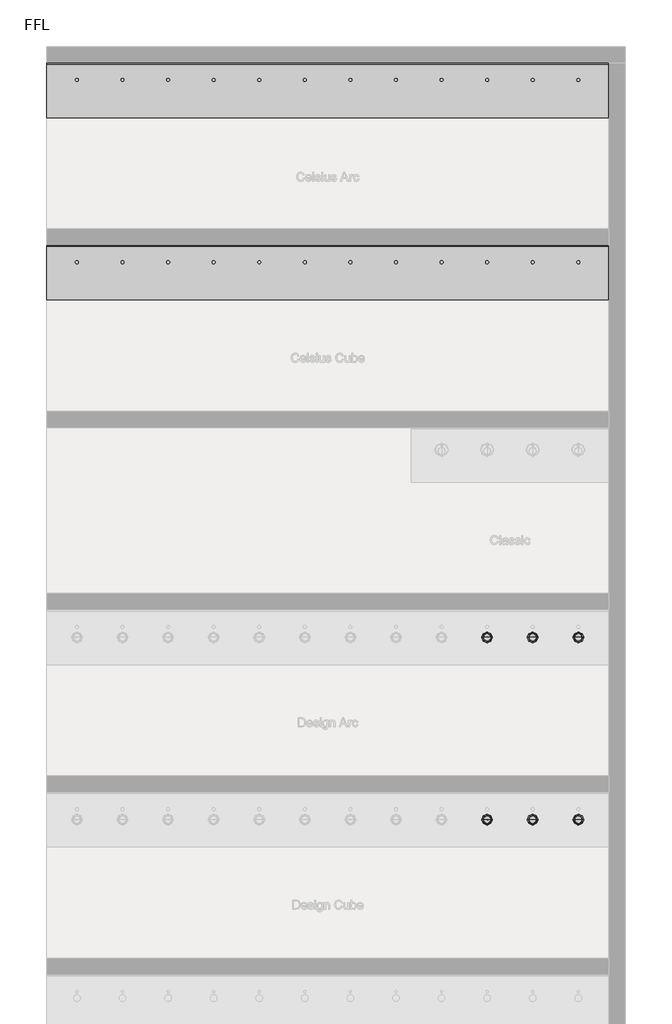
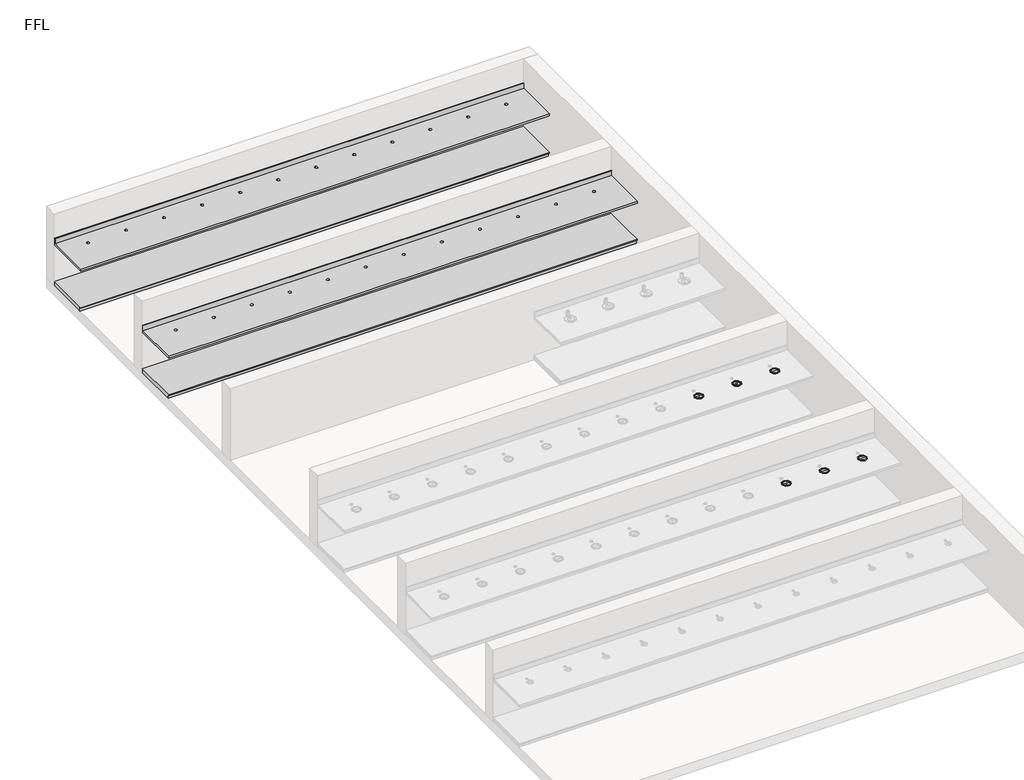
# One storey, part 4 of 6: 6 flow terminals, 4 furniture elements.
"""IFC4 building model written with IfcOpenShell, lengths in millimetres."""

from ifc_helpers import new_model, si_unit, frame, origin, place, context, project, spatial, polyline, circle_curve, transform, mapped, element, save
from ifc_brep_helpers import plane_surface, revolved_surface, advanced_brep
from components import bright_chrome_743c02cf, generic_plinth_900mm_08863006

model = new_model("IFC4")

# Units and contexts
model_context = context("Model", 3, world=origin())
ifc_project = project(units=[si_unit("LENGTHUNIT", "METRE", prefix="MILLI")], contexts=[model_context])

# Site, building, storey
site = spatial("IfcSite", under=ifc_project)
building = spatial("IfcBuilding", under=site)
storey = spatial("IfcBuildingStorey", under=building, Name="FFL", Elevation=0.0)

# Flow terminals
placement = place(None, origin())
bright_chrome_shape = bright_chrome_743c02cf(model_context)
element("IfcFlowTerminal", 1, ObjectType="z_PlumFixt_Zip Australia_Font : Nickel", at=placement, inside=storey, context=model_context, shape_type="MappedRepresentation", body=[
    mapped(bright_chrome_shape, transform((279.2647071, 4381.2393304, 900.0), x_axis=(1.0, 0.0, 0.0), y_axis=(0.0, 1.0, 0.0), z_axis=(0.0, 0.0, 1.0))),
])
element("IfcFlowTerminal", 2, ObjectType="z_PlumFixt_Zip Australia_Font : Nickel", at=placement, inside=storey, context=model_context, shape_type="MappedRepresentation", body=[
    mapped(bright_chrome_shape, transform((279.2647071, 1381.2393304, 900.0), x_axis=(1.0, 0.0, 0.0), y_axis=(0.0, 1.0, 0.0), z_axis=(0.0, 0.0, 1.0))),
])
element("IfcFlowTerminal", 3, ObjectType="z_PlumFixt_Zip Australia_Font : Platinum", at=placement, inside=storey, context=model_context, shape_type="MappedRepresentation", body=[
    mapped(bright_chrome_shape, transform((1029.2647071, 4381.2393304, 900.0), x_axis=(1.0, 0.0, 0.0), y_axis=(0.0, 1.0, 0.0), z_axis=(0.0, 0.0, 1.0))),
])
element("IfcFlowTerminal", 4, ObjectType="z_PlumFixt_Zip Australia_Font : Platinum", at=placement, inside=storey, context=model_context, shape_type="MappedRepresentation", body=[
    mapped(bright_chrome_shape, transform((1029.2647071, 1381.2393304, 900.0), x_axis=(1.0, 0.0, 0.0), y_axis=(0.0, 1.0, 0.0), z_axis=(0.0, 0.0, 1.0))),
])
element("IfcFlowTerminal", 5, ObjectType="z_PlumFixt_Zip Australia_Font : Rose Gold", at=placement, inside=storey, context=model_context, shape_type="MappedRepresentation", body=[
    mapped(bright_chrome_shape, transform((1779.2647071, 4381.2393304, 900.0), x_axis=(1.0, 0.0, 0.0), y_axis=(0.0, 1.0, 0.0), z_axis=(0.0, 0.0, 1.0))),
])
element("IfcFlowTerminal", 6, ObjectType="z_PlumFixt_Zip Australia_Font : Rose Gold", at=placement, inside=storey, context=model_context, shape_type="MappedRepresentation", body=[
    mapped(bright_chrome_shape, transform((1779.2647071, 1381.2393304, 900.0), x_axis=(1.0, 0.0, 0.0), y_axis=(0.0, 1.0, 0.0), z_axis=(0.0, 0.0, 1.0))),
])

# Furniture
element("IfcFurniture", 7, ObjectType="Counter Top : 900mm Depth", at=placement, inside=storey, context=model_context, shape_type="AdvancedBrep", body=[
    advanced_brep(
    [(-6969.7352929, 12948.2393304, 900.0), (2280.2657919, 12948.2393304, 900.0), (2280.2657919, 13829.1893304, 900.0), (-6969.7352929, 13829.1893304, 900.0), (-6469.7352929, 13543.7393304, 900.0), (-6469.7352929, 13592.7393304, 900.0), (-5719.7352929, 13543.7393304, 900.0), (-5719.7352929, 13592.7393304, 900.0), (-4969.7352929, 13543.7393304, 900.0), (-4969.7352929, 13592.7393304, 900.0), (-4219.7352929, 13543.7393304, 900.0), (-4219.7352929, 13592.7393304, 900.0), (-3469.7352929, 13543.7393304, 900.0), (-3469.7352929, 13592.7393304, 900.0), (-2719.7352929, 13543.7393304, 900.0), (-2719.7352929, 13592.7393304, 900.0), (-1969.7352929, 13543.7393304, 900.0), (-1969.7352929, 13592.7393304, 900.0), (-1219.7352929, 13543.7393304, 900.0), (-1219.7352929, 13592.7393304, 900.0), (-469.7352929, 13543.7393304, 900.0), (-469.7352929, 13592.7393304, 900.0), (280.2647071, 13543.7393304, 900.0), (280.2647071, 13592.7393304, 900.0), (1030.2647071, 13543.7393304, 900.0), (1030.2647071, 13592.7393304, 900.0), (1780.2647071, 13543.7393304, 900.0), (1780.2647071, 13592.7393304, 900.0), (2280.2657919, 13848.2393304, 860.0), (2280.2657919, 12948.2393304, 860.0), (-6969.7352929, 12948.2393304, 860.0), (-6969.7352929, 13848.2393304, 860.0), (-6469.7352929, 13592.7393304, 860.0), (-6469.7352929, 13543.7393304, 860.0), (-5719.7352929, 13592.7393304, 860.0), (-5719.7352929, 13543.7393304, 860.0), (-4969.7352929, 13592.7393304, 860.0), (-4969.7352929, 13543.7393304, 860.0), (-4219.7352929, 13592.7393304, 860.0), (-4219.7352929, 13543.7393304, 860.0), (-3469.7352929, 13592.7393304, 860.0), (-3469.7352929, 13543.7393304, 860.0), (-2719.7352929, 13592.7393304, 860.0), (-2719.7352929, 13543.7393304, 860.0), (-1969.7352929, 13592.7393304, 860.0), (-1969.7352929, 13543.7393304, 860.0), (-1219.7352929, 13592.7393304, 860.0), (-1219.7352929, 13543.7393304, 860.0), (-469.7352929, 13592.7393304, 860.0), (-469.7352929, 13543.7393304, 860.0), (280.2647071, 13592.7393304, 860.0), (280.2647071, 13543.7393304, 860.0), (1030.2647071, 13592.7393304, 860.0), (1030.2647071, 13543.7393304, 860.0), (1780.2647071, 13592.7393304, 860.0), (1780.2647071, 13543.7393304, 860.0), (-6969.7352929, 13848.2393304, 1001.6), (2280.2657919, 13848.2393304, 1001.6), (-6969.7352929, 13829.1893304, 1001.6), (2280.2657919, 13829.1893304, 1001.6)],
    [
        (0, 1),
        (1, 2),
        (2, 3),
        (3, 0),
        (4, 5, circle_curve(frame((-6469.7352929, 13568.2393304, 900.0), z_axis=(0.0, 0.0, -1.0), x_axis=(0.0, -1.0, 0.0)), 24.5)),
        (5, 4, circle_curve(frame((-6469.7352929, 13568.2393304, 900.0), z_axis=(0.0, 0.0, -1.0), x_axis=(0.0, -1.0, 0.0)), 24.5)),
        (6, 7, circle_curve(frame((-5719.7352929, 13568.2393304, 900.0), z_axis=(0.0, 0.0, -1.0), x_axis=(0.0, -1.0, 0.0)), 24.5)),
        (7, 6, circle_curve(frame((-5719.7352929, 13568.2393304, 900.0), z_axis=(0.0, 0.0, -1.0), x_axis=(0.0, -1.0, 0.0)), 24.5)),
        (8, 9, circle_curve(frame((-4969.7352929, 13568.2393304, 900.0), z_axis=(0.0, 0.0, -1.0), x_axis=(0.0, -1.0, 0.0)), 24.5)),
        (9, 8, circle_curve(frame((-4969.7352929, 13568.2393304, 900.0), z_axis=(0.0, 0.0, -1.0), x_axis=(0.0, -1.0, 0.0)), 24.5)),
        (10, 11, circle_curve(frame((-4219.7352929, 13568.2393304, 900.0), z_axis=(0.0, 0.0, -1.0), x_axis=(0.0, -1.0, 0.0)), 24.5)),
        (11, 10, circle_curve(frame((-4219.7352929, 13568.2393304, 900.0), z_axis=(0.0, 0.0, -1.0), x_axis=(0.0, -1.0, 0.0)), 24.5)),
        (12, 13, circle_curve(frame((-3469.7352929, 13568.2393304, 900.0), z_axis=(0.0, 0.0, -1.0), x_axis=(0.0, -1.0, 0.0)), 24.5)),
        (13, 12, circle_curve(frame((-3469.7352929, 13568.2393304, 900.0), z_axis=(0.0, 0.0, -1.0), x_axis=(0.0, -1.0, 0.0)), 24.5)),
        (14, 15, circle_curve(frame((-2719.7352929, 13568.2393304, 900.0), z_axis=(0.0, 0.0, -1.0), x_axis=(0.0, -1.0, 0.0)), 24.5)),
        (15, 14, circle_curve(frame((-2719.7352929, 13568.2393304, 900.0), z_axis=(0.0, 0.0, -1.0), x_axis=(0.0, -1.0, 0.0)), 24.5)),
        (16, 17, circle_curve(frame((-1969.7352929, 13568.2393304, 900.0), z_axis=(0.0, 0.0, -1.0), x_axis=(0.0, -1.0, 0.0)), 24.5)),
        (17, 16, circle_curve(frame((-1969.7352929, 13568.2393304, 900.0), z_axis=(0.0, 0.0, -1.0), x_axis=(0.0, -1.0, 0.0)), 24.5)),
        (18, 19, circle_curve(frame((-1219.7352929, 13568.2393304, 900.0), z_axis=(0.0, 0.0, -1.0), x_axis=(0.0, -1.0, 0.0)), 24.5)),
        (19, 18, circle_curve(frame((-1219.7352929, 13568.2393304, 900.0), z_axis=(0.0, 0.0, -1.0), x_axis=(0.0, -1.0, 0.0)), 24.5)),
        (20, 21, circle_curve(frame((-469.7352929, 13568.2393304, 900.0), z_axis=(0.0, 0.0, -1.0), x_axis=(0.0, -1.0, 0.0)), 24.5)),
        (21, 20, circle_curve(frame((-469.7352929, 13568.2393304, 900.0), z_axis=(0.0, 0.0, -1.0), x_axis=(0.0, -1.0, 0.0)), 24.5)),
        (22, 23, circle_curve(frame((280.2647071, 13568.2393304, 900.0), z_axis=(0.0, 0.0, -1.0), x_axis=(0.0, -1.0, 0.0)), 24.5)),
        (23, 22, circle_curve(frame((280.2647071, 13568.2393304, 900.0), z_axis=(0.0, 0.0, -1.0), x_axis=(0.0, -1.0, 0.0)), 24.5)),
        (24, 25, circle_curve(frame((1030.2647071, 13568.2393304, 900.0), z_axis=(0.0, 0.0, -1.0), x_axis=(0.0, -1.0, 0.0)), 24.5)),
        (25, 24, circle_curve(frame((1030.2647071, 13568.2393304, 900.0), z_axis=(0.0, 0.0, -1.0), x_axis=(0.0, -1.0, 0.0)), 24.5)),
        (26, 27, circle_curve(frame((1780.2647071, 13568.2393304, 900.0), z_axis=(0.0, 0.0, -1.0), x_axis=(0.0, -1.0, 0.0)), 24.5)),
        (27, 26, circle_curve(frame((1780.2647071, 13568.2393304, 900.0), z_axis=(0.0, 0.0, -1.0), x_axis=(0.0, -1.0, 0.0)), 24.5)),
        (28, 29),
        (29, 30),
        (30, 31),
        (31, 28),
        (32, 33, circle_curve(frame((-6469.7352929, 13568.2393304, 860.0), z_axis=(0.0, 0.0, 1.0), x_axis=(0.0, -1.0, 0.0)), 24.5)),
        (33, 32, circle_curve(frame((-6469.7352929, 13568.2393304, 860.0), z_axis=(0.0, 0.0, 1.0), x_axis=(0.0, -1.0, 0.0)), 24.5)),
        (34, 35, circle_curve(frame((-5719.7352929, 13568.2393304, 860.0), z_axis=(0.0, 0.0, 1.0), x_axis=(0.0, -1.0, 0.0)), 24.5)),
        (35, 34, circle_curve(frame((-5719.7352929, 13568.2393304, 860.0), z_axis=(0.0, 0.0, 1.0), x_axis=(0.0, -1.0, 0.0)), 24.5)),
        (36, 37, circle_curve(frame((-4969.7352929, 13568.2393304, 860.0), z_axis=(0.0, 0.0, 1.0), x_axis=(0.0, -1.0, 0.0)), 24.5)),
        (37, 36, circle_curve(frame((-4969.7352929, 13568.2393304, 860.0), z_axis=(0.0, 0.0, 1.0), x_axis=(0.0, -1.0, 0.0)), 24.5)),
        (38, 39, circle_curve(frame((-4219.7352929, 13568.2393304, 860.0), z_axis=(0.0, 0.0, 1.0), x_axis=(0.0, -1.0, 0.0)), 24.5)),
        (39, 38, circle_curve(frame((-4219.7352929, 13568.2393304, 860.0), z_axis=(0.0, 0.0, 1.0), x_axis=(0.0, -1.0, 0.0)), 24.5)),
        (40, 41, circle_curve(frame((-3469.7352929, 13568.2393304, 860.0), z_axis=(0.0, 0.0, 1.0), x_axis=(0.0, -1.0, 0.0)), 24.5)),
        (41, 40, circle_curve(frame((-3469.7352929, 13568.2393304, 860.0), z_axis=(0.0, 0.0, 1.0), x_axis=(0.0, -1.0, 0.0)), 24.5)),
        (42, 43, circle_curve(frame((-2719.7352929, 13568.2393304, 860.0), z_axis=(0.0, 0.0, 1.0), x_axis=(0.0, -1.0, 0.0)), 24.5)),
        (43, 42, circle_curve(frame((-2719.7352929, 13568.2393304, 860.0), z_axis=(0.0, 0.0, 1.0), x_axis=(0.0, -1.0, 0.0)), 24.5)),
        (44, 45, circle_curve(frame((-1969.7352929, 13568.2393304, 860.0), z_axis=(0.0, 0.0, 1.0), x_axis=(0.0, -1.0, 0.0)), 24.5)),
        (45, 44, circle_curve(frame((-1969.7352929, 13568.2393304, 860.0), z_axis=(0.0, 0.0, 1.0), x_axis=(0.0, -1.0, 0.0)), 24.5)),
        (46, 47, circle_curve(frame((-1219.7352929, 13568.2393304, 860.0), z_axis=(0.0, 0.0, 1.0), x_axis=(0.0, -1.0, 0.0)), 24.5)),
        (47, 46, circle_curve(frame((-1219.7352929, 13568.2393304, 860.0), z_axis=(0.0, 0.0, 1.0), x_axis=(0.0, -1.0, 0.0)), 24.5)),
        (48, 49, circle_curve(frame((-469.7352929, 13568.2393304, 860.0), z_axis=(0.0, 0.0, 1.0), x_axis=(0.0, -1.0, 0.0)), 24.5)),
        (49, 48, circle_curve(frame((-469.7352929, 13568.2393304, 860.0), z_axis=(0.0, 0.0, 1.0), x_axis=(0.0, -1.0, 0.0)), 24.5)),
        (50, 51, circle_curve(frame((280.2647071, 13568.2393304, 860.0), z_axis=(0.0, 0.0, 1.0), x_axis=(0.0, -1.0, 0.0)), 24.5)),
        (51, 50, circle_curve(frame((280.2647071, 13568.2393304, 860.0), z_axis=(0.0, 0.0, 1.0), x_axis=(0.0, -1.0, 0.0)), 24.5)),
        (52, 53, circle_curve(frame((1030.2647071, 13568.2393304, 860.0), z_axis=(0.0, 0.0, 1.0), x_axis=(0.0, -1.0, 0.0)), 24.5)),
        (53, 52, circle_curve(frame((1030.2647071, 13568.2393304, 860.0), z_axis=(0.0, 0.0, 1.0), x_axis=(0.0, -1.0, 0.0)), 24.5)),
        (54, 55, circle_curve(frame((1780.2647071, 13568.2393304, 860.0), z_axis=(0.0, 0.0, 1.0), x_axis=(0.0, -1.0, 0.0)), 24.5)),
        (55, 54, circle_curve(frame((1780.2647071, 13568.2393304, 860.0), z_axis=(0.0, 0.0, 1.0), x_axis=(0.0, -1.0, 0.0)), 24.5)),
        (31, 56),
        (56, 57),
        (57, 28),
        (3, 58),
        (58, 56),
        (30, 0),
        (29, 1),
        (57, 59),
        (59, 2),
        (58, 59),
        (32, 5),
        (4, 33),
        (34, 7),
        (6, 35),
        (36, 9),
        (8, 37),
        (38, 11),
        (10, 39),
        (40, 13),
        (12, 41),
        (42, 15),
        (14, 43),
        (44, 17),
        (16, 45),
        (46, 19),
        (18, 47),
        (48, 21),
        (20, 49),
        (50, 23),
        (22, 51),
        (52, 25),
        (24, 53),
        (54, 27),
        (26, 55),
    ],
    [
        plane_surface(frame((-6969.7352929, 13848.2393304, 900.0), z_axis=(0.0, 0.0, 1.0), x_axis=(-1.0, 0.0, 0.0))),
        plane_surface(frame((-6969.7352929, 13848.2393304, 860.0), z_axis=(0.0, 0.0, -1.0), x_axis=(1.0, 0.0, 0.0))),
        plane_surface(frame((2280.2657919, 13848.2393304, 900.0), z_axis=(0.0, 1.0, 0.0), x_axis=(0.0, 0.0, -1.0))),
        plane_surface(frame((-6969.7352929, 13848.2393304, 900.0), z_axis=(-1.0, 0.0, 0.0), x_axis=(0.0, 0.0, -1.0))),
        plane_surface(frame((-6969.7352929, 12948.2393304, 900.0), z_axis=(0.0, -1.0, 0.0), x_axis=(0.0, 0.0, -1.0))),
        plane_surface(frame((2280.2657919, 12948.2393304, 900.0), z_axis=(1.0, 0.0, 0.0), x_axis=(0.0, 0.0, -1.0))),
        plane_surface(frame((-6969.7352929, 13848.2393304, 1001.6), z_axis=(0.0, 0.0, 1.0), x_axis=(0.0, -1.0, 0.0))),
        plane_surface(frame((-6969.7352929, 13829.1893304, 1001.6), z_axis=(0.0, -1.0, 0.0), x_axis=(0.0, 0.0, -1.0))),
        revolved_surface(polyline([(-6469.7352929, 13543.7393304, 900.0), (-6469.7352929, 13543.7393304, 860.0)]), (-6469.7352929, 13568.2393304, 700.0), (0.0, 0.0, 1.0)),
        revolved_surface(polyline([(-5719.7352929, 13543.7393304, 900.0), (-5719.7352929, 13543.7393304, 860.0)]), (-5719.7352929, 13568.2393304, 700.0), (0.0, 0.0, 1.0)),
        revolved_surface(polyline([(-4969.7352929, 13543.7393304, 900.0), (-4969.7352929, 13543.7393304, 860.0)]), (-4969.7352929, 13568.2393304, 700.0), (0.0, 0.0, 1.0)),
        revolved_surface(polyline([(-4219.7352929, 13543.7393304, 900.0), (-4219.7352929, 13543.7393304, 860.0)]), (-4219.7352929, 13568.2393304, 700.0), (0.0, 0.0, 1.0)),
        revolved_surface(polyline([(-3469.7352929, 13543.7393304, 900.0), (-3469.7352929, 13543.7393304, 860.0)]), (-3469.7352929, 13568.2393304, 700.0), (0.0, 0.0, 1.0)),
        revolved_surface(polyline([(-2719.7352929, 13543.7393304, 900.0), (-2719.7352929, 13543.7393304, 860.0)]), (-2719.7352929, 13568.2393304, 700.0), (0.0, 0.0, 1.0)),
        revolved_surface(polyline([(-1969.7352929, 13543.7393304, 900.0), (-1969.7352929, 13543.7393304, 860.0)]), (-1969.7352929, 13568.2393304, 700.0), (0.0, 0.0, 1.0)),
        revolved_surface(polyline([(-1219.7352929, 13543.7393304, 900.0), (-1219.7352929, 13543.7393304, 860.0)]), (-1219.7352929, 13568.2393304, 700.0), (0.0, 0.0, 1.0)),
        revolved_surface(polyline([(-469.7352929, 13543.7393304, 900.0), (-469.7352929, 13543.7393304, 860.0)]), (-469.7352929, 13568.2393304, 700.0), (0.0, 0.0, 1.0)),
        revolved_surface(polyline([(280.2647071, 13543.7393304, 900.0), (280.2647071, 13543.7393304, 860.0)]), (280.2647071, 13568.2393304, 700.0), (0.0, 0.0, 1.0)),
        revolved_surface(polyline([(1030.2647071, 13543.7393304, 900.0), (1030.2647071, 13543.7393304, 860.0)]), (1030.2647071, 13568.2393304, 700.0), (0.0, 0.0, 1.0)),
        revolved_surface(polyline([(1780.2647071, 13543.7393304, 900.0), (1780.2647071, 13543.7393304, 860.0)]), (1780.2647071, 13568.2393304, 700.0), (0.0, 0.0, 1.0)),
    ],
    [
        (0, [[1, 2, 3, 4], [5, 6], [7, 8], [9, 10], [11, 12], [13, 14], [15, 16], [17, 18], [19, 20], [21, 22], [23, 24], [25, 26], [27, 28]]),
        (1, [[29, 30, 31, 32], [33, 34], [35, 36], [37, 38], [39, 40], [41, 42], [43, 44], [45, 46], [47, 48], [49, 50], [51, 52], [53, 54], [55, 56]]),
        (2, [[-32, 57, 58, 59]]),
        (3, [[-4, 60, 61, -57, -31, 62]]),
        (4, [[-1, -62, -30, 63]]),
        (5, [[-2, -63, -29, -59, 64, 65]]),
        (6, [[-58, -61, 66, -64]]),
        (7, [[-3, -65, -66, -60]]),
        (8, [[67, -5, 68, -33]]),
        (8, [[-67, -34, -68, -6]]),
        (9, [[69, -7, 70, -35]]),
        (9, [[-69, -36, -70, -8]]),
        (10, [[71, -9, 72, -37]]),
        (10, [[-71, -38, -72, -10]]),
        (11, [[73, -11, 74, -39]]),
        (11, [[-73, -40, -74, -12]]),
        (12, [[75, -13, 76, -41]]),
        (12, [[-75, -42, -76, -14]]),
        (13, [[77, -15, 78, -43]]),
        (13, [[-77, -44, -78, -16]]),
        (14, [[79, -17, 80, -45]]),
        (14, [[-79, -46, -80, -18]]),
        (15, [[81, -19, 82, -47]]),
        (15, [[-81, -48, -82, -20]]),
        (16, [[83, -21, 84, -49]]),
        (16, [[-83, -50, -84, -22]]),
        (17, [[85, -23, 86, -51]]),
        (17, [[-85, -52, -86, -24]]),
        (18, [[87, -25, 88, -53]]),
        (18, [[-87, -54, -88, -26]]),
        (19, [[89, -27, 90, -55]]),
        (19, [[-89, -56, -90, -28]]),
    ],
),
])
element("IfcFurniture", 8, ObjectType="Counter Top : 900mm Depth", at=placement, inside=storey, context=model_context, shape_type="AdvancedBrep", body=[
    advanced_brep(
    [(-6969.7352929, 9948.2393304, 900.0), (2280.2657919, 9948.2393304, 900.0), (2280.2657919, 10829.1893304, 900.0), (-6969.7352929, 10829.1893304, 900.0), (-6445.2352929, 10568.2393304, 900.0), (-6494.2352929, 10568.2393304, 900.0), (-5695.2352929, 10568.2393304, 900.0), (-5744.2352929, 10568.2393304, 900.0), (-4945.2352929, 10568.2393304, 900.0), (-4994.2352929, 10568.2393304, 900.0), (-4195.2352929, 10568.2393304, 900.0), (-4244.2352929, 10568.2393304, 900.0), (-3445.2352929, 10568.2393304, 900.0), (-3494.2352929, 10568.2393304, 900.0), (-2695.2352929, 10568.2393304, 900.0), (-2744.2352929, 10568.2393304, 900.0), (-1945.2352929, 10568.2393304, 900.0), (-1994.2352929, 10568.2393304, 900.0), (-1195.2352929, 10568.2393304, 900.0), (-1244.2352929, 10568.2393304, 900.0), (-445.2352929, 10568.2393304, 900.0), (-494.2352929, 10568.2393304, 900.0), (304.7647071, 10568.2393304, 900.0), (255.7647071, 10568.2393304, 900.0), (1054.7647071, 10568.2393304, 900.0), (1005.7647071, 10568.2393304, 900.0), (1804.7647071, 10568.2393304, 900.0), (1755.7647071, 10568.2393304, 900.0), (2280.2657919, 10848.2393304, 860.0), (2280.2657919, 9948.2393304, 860.0), (-6969.7352929, 9948.2393304, 860.0), (-6969.7352929, 10848.2393304, 860.0), (-6494.2352929, 10568.2393304, 860.0), (-6445.2352929, 10568.2393304, 860.0), (-5744.2352929, 10568.2393304, 860.0), (-5695.2352929, 10568.2393304, 860.0), (-4994.2352929, 10568.2393304, 860.0), (-4945.2352929, 10568.2393304, 860.0), (-4244.2352929, 10568.2393304, 860.0), (-4195.2352929, 10568.2393304, 860.0), (-3494.2352929, 10568.2393304, 860.0), (-3445.2352929, 10568.2393304, 860.0), (-2744.2352929, 10568.2393304, 860.0), (-2695.2352929, 10568.2393304, 860.0), (-1994.2352929, 10568.2393304, 860.0), (-1945.2352929, 10568.2393304, 860.0), (-1244.2352929, 10568.2393304, 860.0), (-1195.2352929, 10568.2393304, 860.0), (-494.2352929, 10568.2393304, 860.0), (-445.2352929, 10568.2393304, 860.0), (255.7647071, 10568.2393304, 860.0), (304.7647071, 10568.2393304, 860.0), (1005.7647071, 10568.2393304, 860.0), (1054.7647071, 10568.2393304, 860.0), (1755.7647071, 10568.2393304, 860.0), (1804.7647071, 10568.2393304, 860.0), (-6969.7352929, 10848.2393304, 1001.6), (2280.2657919, 10848.2393304, 1001.6), (-6969.7352929, 10829.1893304, 1001.6), (2280.2657919, 10829.1893304, 1001.6)],
    [
        (0, 1),
        (1, 2),
        (2, 3),
        (3, 0),
        (4, 5, circle_curve(frame((-6469.7352929, 10568.2393304, 900.0), z_axis=(0.0, 0.0, -1.0), x_axis=(0.0, -1.0, 0.0)), 24.5)),
        (5, 4, circle_curve(frame((-6469.7352929, 10568.2393304, 900.0), z_axis=(0.0, 0.0, -1.0), x_axis=(0.0, -1.0, 0.0)), 24.5)),
        (6, 7, circle_curve(frame((-5719.7352929, 10568.2393304, 900.0), z_axis=(0.0, 0.0, -1.0), x_axis=(0.0, -1.0, 0.0)), 24.5)),
        (7, 6, circle_curve(frame((-5719.7352929, 10568.2393304, 900.0), z_axis=(0.0, 0.0, -1.0), x_axis=(0.0, -1.0, 0.0)), 24.5)),
        (8, 9, circle_curve(frame((-4969.7352929, 10568.2393304, 900.0), z_axis=(0.0, 0.0, -1.0), x_axis=(0.0, -1.0, 0.0)), 24.5)),
        (9, 8, circle_curve(frame((-4969.7352929, 10568.2393304, 900.0), z_axis=(0.0, 0.0, -1.0), x_axis=(0.0, -1.0, 0.0)), 24.5)),
        (10, 11, circle_curve(frame((-4219.7352929, 10568.2393304, 900.0), z_axis=(0.0, 0.0, -1.0), x_axis=(0.0, -1.0, 0.0)), 24.5)),
        (11, 10, circle_curve(frame((-4219.7352929, 10568.2393304, 900.0), z_axis=(0.0, 0.0, -1.0), x_axis=(0.0, -1.0, 0.0)), 24.5)),
        (12, 13, circle_curve(frame((-3469.7352929, 10568.2393304, 900.0), z_axis=(0.0, 0.0, -1.0), x_axis=(0.0, -1.0, 0.0)), 24.5)),
        (13, 12, circle_curve(frame((-3469.7352929, 10568.2393304, 900.0), z_axis=(0.0, 0.0, -1.0), x_axis=(0.0, -1.0, 0.0)), 24.5)),
        (14, 15, circle_curve(frame((-2719.7352929, 10568.2393304, 900.0), z_axis=(0.0, 0.0, -1.0), x_axis=(0.0, -1.0, 0.0)), 24.5)),
        (15, 14, circle_curve(frame((-2719.7352929, 10568.2393304, 900.0), z_axis=(0.0, 0.0, -1.0), x_axis=(0.0, -1.0, 0.0)), 24.5)),
        (16, 17, circle_curve(frame((-1969.7352929, 10568.2393304, 900.0), z_axis=(0.0, 0.0, -1.0), x_axis=(0.0, -1.0, 0.0)), 24.5)),
        (17, 16, circle_curve(frame((-1969.7352929, 10568.2393304, 900.0), z_axis=(0.0, 0.0, -1.0), x_axis=(0.0, -1.0, 0.0)), 24.5)),
        (18, 19, circle_curve(frame((-1219.7352929, 10568.2393304, 900.0), z_axis=(0.0, 0.0, -1.0), x_axis=(0.0, -1.0, 0.0)), 24.5)),
        (19, 18, circle_curve(frame((-1219.7352929, 10568.2393304, 900.0), z_axis=(0.0, 0.0, -1.0), x_axis=(0.0, -1.0, 0.0)), 24.5)),
        (20, 21, circle_curve(frame((-469.7352929, 10568.2393304, 900.0), z_axis=(0.0, 0.0, -1.0), x_axis=(0.0, -1.0, 0.0)), 24.5)),
        (21, 20, circle_curve(frame((-469.7352929, 10568.2393304, 900.0), z_axis=(0.0, 0.0, -1.0), x_axis=(0.0, -1.0, 0.0)), 24.5)),
        (22, 23, circle_curve(frame((280.2647071, 10568.2393304, 900.0), z_axis=(0.0, 0.0, -1.0), x_axis=(0.0, -1.0, 0.0)), 24.5)),
        (23, 22, circle_curve(frame((280.2647071, 10568.2393304, 900.0), z_axis=(0.0, 0.0, -1.0), x_axis=(0.0, -1.0, 0.0)), 24.5)),
        (24, 25, circle_curve(frame((1030.2647071, 10568.2393304, 900.0), z_axis=(0.0, 0.0, -1.0), x_axis=(0.0, -1.0, 0.0)), 24.5)),
        (25, 24, circle_curve(frame((1030.2647071, 10568.2393304, 900.0), z_axis=(0.0, 0.0, -1.0), x_axis=(0.0, -1.0, 0.0)), 24.5)),
        (26, 27, circle_curve(frame((1780.2647071, 10568.2393304, 900.0), z_axis=(0.0, 0.0, -1.0), x_axis=(0.0, -1.0, 0.0)), 24.5)),
        (27, 26, circle_curve(frame((1780.2647071, 10568.2393304, 900.0), z_axis=(0.0, 0.0, -1.0), x_axis=(0.0, -1.0, 0.0)), 24.5)),
        (28, 29),
        (29, 30),
        (30, 31),
        (31, 28),
        (32, 33, circle_curve(frame((-6469.7352929, 10568.2393304, 860.0), z_axis=(0.0, 0.0, 1.0), x_axis=(0.0, -1.0, 0.0)), 24.5)),
        (33, 32, circle_curve(frame((-6469.7352929, 10568.2393304, 860.0), z_axis=(0.0, 0.0, 1.0), x_axis=(0.0, -1.0, 0.0)), 24.5)),
        (34, 35, circle_curve(frame((-5719.7352929, 10568.2393304, 860.0), z_axis=(0.0, 0.0, 1.0), x_axis=(0.0, -1.0, 0.0)), 24.5)),
        (35, 34, circle_curve(frame((-5719.7352929, 10568.2393304, 860.0), z_axis=(0.0, 0.0, 1.0), x_axis=(0.0, -1.0, 0.0)), 24.5)),
        (36, 37, circle_curve(frame((-4969.7352929, 10568.2393304, 860.0), z_axis=(0.0, 0.0, 1.0), x_axis=(0.0, -1.0, 0.0)), 24.5)),
        (37, 36, circle_curve(frame((-4969.7352929, 10568.2393304, 860.0), z_axis=(0.0, 0.0, 1.0), x_axis=(0.0, -1.0, 0.0)), 24.5)),
        (38, 39, circle_curve(frame((-4219.7352929, 10568.2393304, 860.0), z_axis=(0.0, 0.0, 1.0), x_axis=(0.0, -1.0, 0.0)), 24.5)),
        (39, 38, circle_curve(frame((-4219.7352929, 10568.2393304, 860.0), z_axis=(0.0, 0.0, 1.0), x_axis=(0.0, -1.0, 0.0)), 24.5)),
        (40, 41, circle_curve(frame((-3469.7352929, 10568.2393304, 860.0), z_axis=(0.0, 0.0, 1.0), x_axis=(0.0, -1.0, 0.0)), 24.5)),
        (41, 40, circle_curve(frame((-3469.7352929, 10568.2393304, 860.0), z_axis=(0.0, 0.0, 1.0), x_axis=(0.0, -1.0, 0.0)), 24.5)),
        (42, 43, circle_curve(frame((-2719.7352929, 10568.2393304, 860.0), z_axis=(0.0, 0.0, 1.0), x_axis=(0.0, -1.0, 0.0)), 24.5)),
        (43, 42, circle_curve(frame((-2719.7352929, 10568.2393304, 860.0), z_axis=(0.0, 0.0, 1.0), x_axis=(0.0, -1.0, 0.0)), 24.5)),
        (44, 45, circle_curve(frame((-1969.7352929, 10568.2393304, 860.0), z_axis=(0.0, 0.0, 1.0), x_axis=(0.0, -1.0, 0.0)), 24.5)),
        (45, 44, circle_curve(frame((-1969.7352929, 10568.2393304, 860.0), z_axis=(0.0, 0.0, 1.0), x_axis=(0.0, -1.0, 0.0)), 24.5)),
        (46, 47, circle_curve(frame((-1219.7352929, 10568.2393304, 860.0), z_axis=(0.0, 0.0, 1.0), x_axis=(0.0, -1.0, 0.0)), 24.5)),
        (47, 46, circle_curve(frame((-1219.7352929, 10568.2393304, 860.0), z_axis=(0.0, 0.0, 1.0), x_axis=(0.0, -1.0, 0.0)), 24.5)),
        (48, 49, circle_curve(frame((-469.7352929, 10568.2393304, 860.0), z_axis=(0.0, 0.0, 1.0), x_axis=(0.0, -1.0, 0.0)), 24.5)),
        (49, 48, circle_curve(frame((-469.7352929, 10568.2393304, 860.0), z_axis=(0.0, 0.0, 1.0), x_axis=(0.0, -1.0, 0.0)), 24.5)),
        (50, 51, circle_curve(frame((280.2647071, 10568.2393304, 860.0), z_axis=(0.0, 0.0, 1.0), x_axis=(0.0, -1.0, 0.0)), 24.5)),
        (51, 50, circle_curve(frame((280.2647071, 10568.2393304, 860.0), z_axis=(0.0, 0.0, 1.0), x_axis=(0.0, -1.0, 0.0)), 24.5)),
        (52, 53, circle_curve(frame((1030.2647071, 10568.2393304, 860.0), z_axis=(0.0, 0.0, 1.0), x_axis=(0.0, -1.0, 0.0)), 24.5)),
        (53, 52, circle_curve(frame((1030.2647071, 10568.2393304, 860.0), z_axis=(0.0, 0.0, 1.0), x_axis=(0.0, -1.0, 0.0)), 24.5)),
        (54, 55, circle_curve(frame((1780.2647071, 10568.2393304, 860.0), z_axis=(0.0, 0.0, 1.0), x_axis=(0.0, -1.0, 0.0)), 24.5)),
        (55, 54, circle_curve(frame((1780.2647071, 10568.2393304, 860.0), z_axis=(0.0, 0.0, 1.0), x_axis=(0.0, -1.0, 0.0)), 24.5)),
        (31, 56),
        (56, 57),
        (57, 28),
        (3, 58),
        (58, 56),
        (30, 0),
        (29, 1),
        (57, 59),
        (59, 2),
        (58, 59),
        (32, 5),
        (4, 33),
        (34, 7),
        (6, 35),
        (36, 9),
        (8, 37),
        (38, 11),
        (10, 39),
        (40, 13),
        (12, 41),
        (42, 15),
        (14, 43),
        (44, 17),
        (16, 45),
        (46, 19),
        (18, 47),
        (48, 21),
        (20, 49),
        (50, 23),
        (22, 51),
        (52, 25),
        (24, 53),
        (54, 27),
        (26, 55),
    ],
    [
        plane_surface(frame((-6969.7352929, 10848.2393304, 900.0), z_axis=(0.0, 0.0, 1.0), x_axis=(-1.0, 0.0, 0.0))),
        plane_surface(frame((-6969.7352929, 10848.2393304, 860.0), z_axis=(0.0, 0.0, -1.0), x_axis=(1.0, 0.0, 0.0))),
        plane_surface(frame((2280.2657919, 10848.2393304, 900.0), z_axis=(0.0, 1.0, 0.0), x_axis=(0.0, 0.0, -1.0))),
        plane_surface(frame((-6969.7352929, 10848.2393304, 900.0), z_axis=(-1.0, 0.0, 0.0), x_axis=(0.0, 0.0, -1.0))),
        plane_surface(frame((-6969.7352929, 9948.2393304, 900.0), z_axis=(0.0, -1.0, 0.0), x_axis=(0.0, 0.0, -1.0))),
        plane_surface(frame((2280.2657919, 9948.2393304, 900.0), z_axis=(1.0, 0.0, 0.0), x_axis=(0.0, 0.0, -1.0))),
        plane_surface(frame((-6969.7352929, 10848.2393304, 1001.6), z_axis=(0.0, 0.0, 1.0), x_axis=(0.0, -1.0, 0.0))),
        plane_surface(frame((-6969.7352929, 10829.1893304, 1001.6), z_axis=(0.0, -1.0, 0.0), x_axis=(0.0, 0.0, -1.0))),
        revolved_surface(polyline([(-6469.7352929, 10543.7393304, 900.0), (-6469.7352929, 10543.7393304, 860.0)]), (-6469.7352929, 10568.2393304, 700.0), (0.0, 0.0, 1.0)),
        revolved_surface(polyline([(-5719.7352929, 10543.7393304, 900.0), (-5719.7352929, 10543.7393304, 860.0)]), (-5719.7352929, 10568.2393304, 700.0), (0.0, 0.0, 1.0)),
        revolved_surface(polyline([(-4969.7352929, 10543.7393304, 900.0), (-4969.7352929, 10543.7393304, 860.0)]), (-4969.7352929, 10568.2393304, 700.0), (0.0, 0.0, 1.0)),
        revolved_surface(polyline([(-4219.7352929, 10543.7393304, 900.0), (-4219.7352929, 10543.7393304, 860.0)]), (-4219.7352929, 10568.2393304, 700.0), (0.0, 0.0, 1.0)),
        revolved_surface(polyline([(-3469.7352929, 10543.7393304, 900.0), (-3469.7352929, 10543.7393304, 860.0)]), (-3469.7352929, 10568.2393304, 700.0), (0.0, 0.0, 1.0)),
        revolved_surface(polyline([(-2719.7352929, 10543.7393304, 900.0), (-2719.7352929, 10543.7393304, 860.0)]), (-2719.7352929, 10568.2393304, 700.0), (0.0, 0.0, 1.0)),
        revolved_surface(polyline([(-1969.7352929, 10543.7393304, 900.0), (-1969.7352929, 10543.7393304, 860.0)]), (-1969.7352929, 10568.2393304, 700.0), (0.0, 0.0, 1.0)),
        revolved_surface(polyline([(-1219.7352929, 10543.7393304, 900.0), (-1219.7352929, 10543.7393304, 860.0)]), (-1219.7352929, 10568.2393304, 700.0), (0.0, 0.0, 1.0)),
        revolved_surface(polyline([(-469.7352929, 10543.7393304, 900.0), (-469.7352929, 10543.7393304, 860.0)]), (-469.7352929, 10568.2393304, 700.0), (0.0, 0.0, 1.0)),
        revolved_surface(polyline([(280.2647071, 10543.7393304, 900.0), (280.2647071, 10543.7393304, 860.0)]), (280.2647071, 10568.2393304, 700.0), (0.0, 0.0, 1.0)),
        revolved_surface(polyline([(1030.2647071, 10543.7393304, 900.0), (1030.2647071, 10543.7393304, 860.0)]), (1030.2647071, 10568.2393304, 700.0), (0.0, 0.0, 1.0)),
        revolved_surface(polyline([(1780.2647071, 10543.7393304, 900.0), (1780.2647071, 10543.7393304, 860.0)]), (1780.2647071, 10568.2393304, 700.0), (0.0, 0.0, 1.0)),
    ],
    [
        (0, [[1, 2, 3, 4], [5, 6], [7, 8], [9, 10], [11, 12], [13, 14], [15, 16], [17, 18], [19, 20], [21, 22], [23, 24], [25, 26], [27, 28]]),
        (1, [[29, 30, 31, 32], [33, 34], [35, 36], [37, 38], [39, 40], [41, 42], [43, 44], [45, 46], [47, 48], [49, 50], [51, 52], [53, 54], [55, 56]]),
        (2, [[-32, 57, 58, 59]]),
        (3, [[-4, 60, 61, -57, -31, 62]]),
        (4, [[-1, -62, -30, 63]]),
        (5, [[-2, -63, -29, -59, 64, 65]]),
        (6, [[-58, -61, 66, -64]]),
        (7, [[-3, -65, -66, -60]]),
        (8, [[67, -5, 68, -33]]),
        (8, [[-67, -34, -68, -6]]),
        (9, [[69, -7, 70, -35]]),
        (9, [[-69, -36, -70, -8]]),
        (10, [[71, -9, 72, -37]]),
        (10, [[-71, -38, -72, -10]]),
        (11, [[73, -11, 74, -39]]),
        (11, [[-73, -40, -74, -12]]),
        (12, [[75, -13, 76, -41]]),
        (12, [[-75, -42, -76, -14]]),
        (13, [[77, -15, 78, -43]]),
        (13, [[-77, -44, -78, -16]]),
        (14, [[79, -17, 80, -45]]),
        (14, [[-79, -46, -80, -18]]),
        (15, [[81, -19, 82, -47]]),
        (15, [[-81, -48, -82, -20]]),
        (16, [[83, -21, 84, -49]]),
        (16, [[-83, -50, -84, -22]]),
        (17, [[85, -23, 86, -51]]),
        (17, [[-85, -52, -86, -24]]),
        (18, [[87, -25, 88, -53]]),
        (18, [[-87, -54, -88, -26]]),
        (19, [[89, -27, 90, -55]]),
        (19, [[-89, -56, -90, -28]]),
    ],
),
])
generic_plinth_900mm_shape = generic_plinth_900mm_08863006(model_context)
element("IfcFurniture", 9, ObjectType="Generic Plinth : 900mm", at=placement, inside=storey, context=model_context, shape_type="MappedRepresentation", body=[
    mapped(generic_plinth_900mm_shape, transform((-2363.4724554, 13848.2393304, 0.0), x_axis=(1.0, 0.0, 0.0), y_axis=(0.0, 1.0, 0.0), z_axis=(0.0, 0.0, 1.0))),
])
element("IfcFurniture", 10, ObjectType="Generic Plinth : 900mm", at=placement, inside=storey, context=model_context, shape_type="MappedRepresentation", body=[
    mapped(generic_plinth_900mm_shape, transform((-2363.4724554, 10848.2393304, 0.0), x_axis=(1.0, 0.0, 0.0), y_axis=(0.0, 1.0, 0.0), z_axis=(0.0, 0.0, 1.0))),
])

save(model, "model.ifc")
